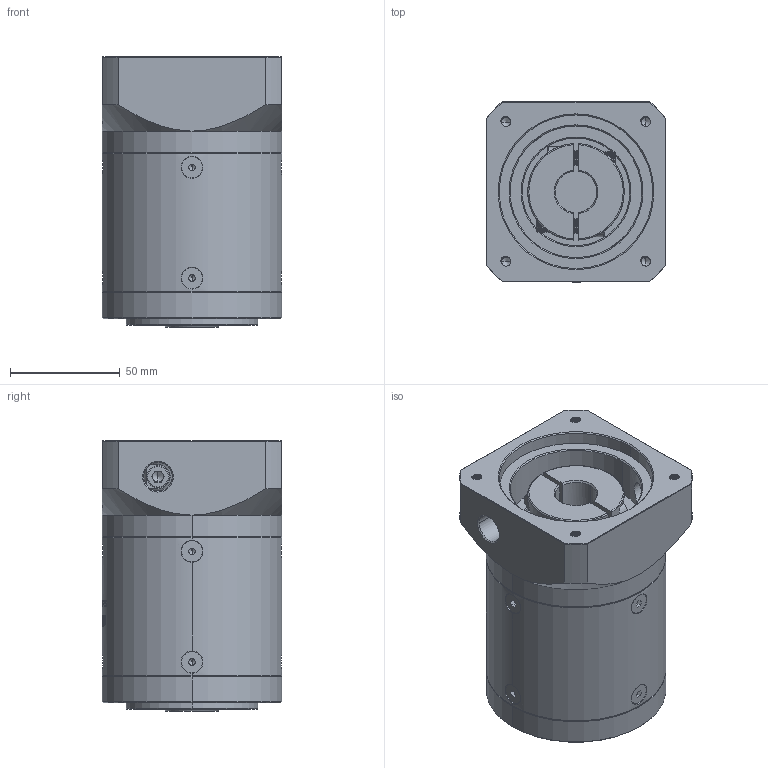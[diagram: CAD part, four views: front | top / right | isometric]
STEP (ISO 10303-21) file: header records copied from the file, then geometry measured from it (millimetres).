
FILE_DESCRIPTION (( 'STEP AP214' ), '1' );
FILE_NAME ('ZE80-K15-L2-19-70-90-M5.step', '2022-05-08T05:57:48', ( '' ), ( 'Microsoft' ), 'SwSTEP 2.0', 'SolidWorks 2016', '' );
FILE_SCHEMA (( 'AUTOMOTIVE_DESIGN' ));
Length unit declared in the file: millimetre
Products named in the file (1): ZE80-K15-L2-19-70-90-M5
Bounding box: 82 x 82 x 123.5 mm (x, y, z)
Volume: 591960.3 mm3; surface area: 86061 mm2
Topology: 13 solids, 13 shells, 2008 faces, 5248 edges, 3327 vertices
Faces by surface type: plane 879, cylinder 473, bspline 322, cone 317, torus 17
Entity records: 112145 total; most frequent: CARTESIAN_POINT 44847, ORIENTED_EDGE 10424, DIRECTION 8037, EDGE_CURVE 5212, VERTEX_POINT 3327, VECTOR 2805, LINE 2805, AXIS2_PLACEMENT_3D 2616
